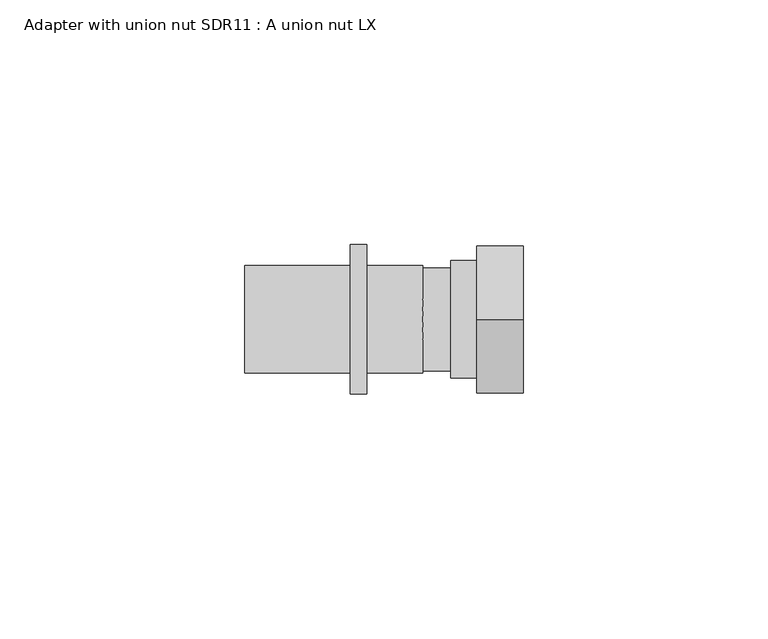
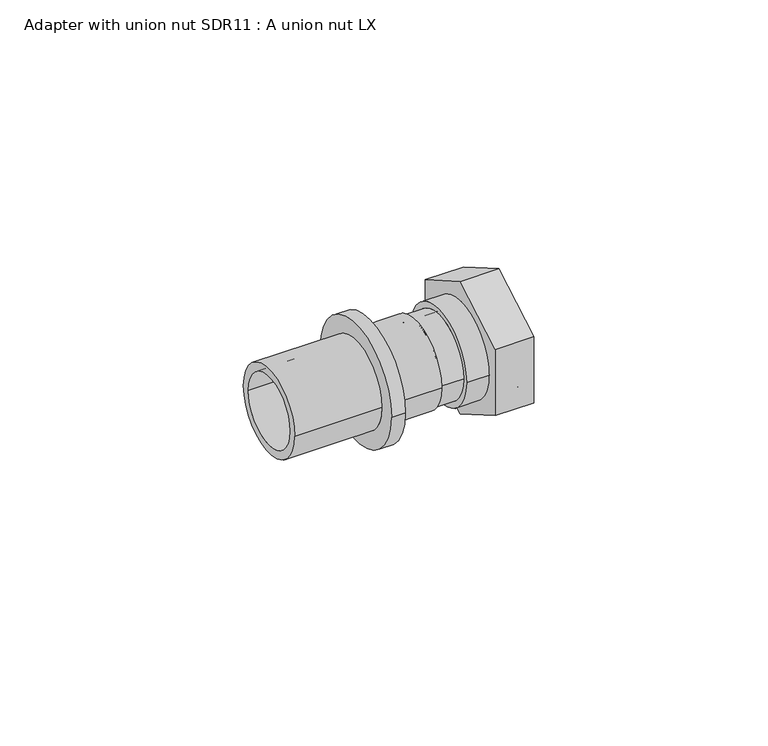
"""IFC4 building model written with IfcOpenShell, lengths in millimetres: pipe fitting geometry, Adapter with union nut SDR11 : A union nut LX."""

from ifc_helpers import new_model, si_unit, frame, origin, place, context, project, spatial, polyline, circle_curve, source, transform, mapped, element, save
from ifc_brep_helpers import plane_surface, cylinder_surface, revolved_surface, advanced_brep


def adapter_with_union_nut_sdr11_a_union_nut_lx_61cef82c(model_context):
    return source(origin(), model_context, "Body", "AdvancedBrep", [
        advanced_brep(
        [(20.5, 12.0, 0.0), (20.5, -12.0, 0.0), (5.7, -12.0, 0.0), (5.7, 12.0, 0.0), (5.7, 10.5, 0.0), (5.7, -10.5, 0.0), (0.0, -10.5, 0.0), (0.0, 10.5, 0.0), (0.0, -8.9, 0.0), (0.0, 8.9, 0.0), (8.2, 10.5, 0.0), (8.2, -10.5, 0.0), (20.5, -10.5, 0.0), (20.5, 10.5, 0.0), (8.2, 8.9, 0.0), (8.2, -8.9, 0.0)],
        [
            (0, 1, circle_curve(frame((20.5, 0.0, 0.0), z_axis=(-1.0, 0.0, 0.0), x_axis=(0.0, -1.0, 0.0)), 12.0)),
            (1, 2),
            (2, 3, circle_curve(frame((5.7, 0.0, 0.0), z_axis=(1.0, 0.0, 0.0), x_axis=(0.0, -1.0, 0.0)), 12.0)),
            (3, 0),
            (4, 5, circle_curve(frame((5.7, 0.0, 0.0), z_axis=(-1.0, 0.0, 0.0), x_axis=(0.0, -1.0, 0.0)), 10.5)),
            (5, 6),
            (6, 7, circle_curve(frame((0.0, 0.0, 0.0), z_axis=(1.0, 0.0, 0.0), x_axis=(0.0, -1.0, 0.0)), 10.5)),
            (7, 4),
            (1, 0, circle_curve(frame((20.5, 0.0, 0.0), z_axis=(-1.0, 0.0, 0.0), x_axis=(0.0, 1.0, 0.0)), 12.0)),
            (3, 2, circle_curve(frame((5.7, 0.0, 0.0), z_axis=(1.0, 0.0, 0.0), x_axis=(0.0, 1.0, 0.0)), 12.0)),
            (6, 7, circle_curve(frame((0.0, 0.0, 0.0), z_axis=(-1.0, 0.0, 0.0), x_axis=(0.0, 1.0, 0.0)), 10.5)),
            (8, 9, circle_curve(frame((0.0, 0.0, 0.0), z_axis=(1.0, 0.0, 0.0), x_axis=(0.0, -1.0, 0.0)), 8.9)),
            (9, 8, circle_curve(frame((0.0, 0.0, 0.0), z_axis=(1.0, 0.0, 0.0), x_axis=(0.0, -1.0, 0.0)), 8.9)),
            (5, 4, circle_curve(frame((5.7, 0.0, 0.0), z_axis=(-1.0, 0.0, 0.0), x_axis=(0.0, 1.0, 0.0)), 10.5)),
            (10, 11, circle_curve(frame((8.2, 0.0, 0.0), z_axis=(-1.0, 0.0, 0.0), x_axis=(0.0, -1.0, 0.0)), 10.5)),
            (11, 12),
            (12, 13, circle_curve(frame((20.5, 0.0, 0.0), z_axis=(1.0, 0.0, 0.0), x_axis=(0.0, -1.0, 0.0)), 10.5)),
            (13, 10),
            (12, 13, circle_curve(frame((20.5, 0.0, 0.0), z_axis=(-1.0, 0.0, 0.0), x_axis=(0.0, 1.0, 0.0)), 10.5)),
            (11, 10, circle_curve(frame((8.2, 0.0, 0.0), z_axis=(-1.0, 0.0, 0.0), x_axis=(0.0, 1.0, 0.0)), 10.5)),
            (14, 15, circle_curve(frame((8.2, 0.0, 0.0), z_axis=(-1.0, 0.0, 0.0), x_axis=(0.0, -1.0, 0.0)), 8.9)),
            (15, 14, circle_curve(frame((8.2, 0.0, 0.0), z_axis=(-1.0, 0.0, 0.0), x_axis=(0.0, -1.0, 0.0)), 8.9)),
            (14, 9),
            (8, 15),
        ],
        [
            cylinder_surface(frame((0.0, 0.0, 0.0), z_axis=(1.0, 0.0, 0.0), x_axis=(0.0, -1.0, 0.0)), 12.0),
            cylinder_surface(frame((0.0, 0.0, 0.0), z_axis=(1.0, 0.0, 0.0), x_axis=(0.0, -1.0, 0.0)), 10.5),
            cylinder_surface(frame((0.0, 0.0, 0.0), z_axis=(1.0, 0.0, 0.0), x_axis=(0.0, 1.0, 0.0)), 12.0),
            plane_surface(frame((0.0, 0.0, 0.0), z_axis=(-1.0, 0.0, 0.0), x_axis=(0.0, 1.0, 0.0))),
            cylinder_surface(frame((0.0, 0.0, 0.0), z_axis=(1.0, 0.0, 0.0), x_axis=(0.0, 1.0, 0.0)), 10.5),
            plane_surface(frame((5.7, 0.0, 0.0), z_axis=(-1.0, 0.0, 0.0), x_axis=(0.0, 1.0, 0.0))),
            revolved_surface(polyline([(20.5, -10.5, 0.0), (8.2, -10.5, 0.0)]), (0.0, 0.0, 0.0), (1.0, 0.0, 0.0)),
            plane_surface(frame((20.5, 0.0, 0.0), z_axis=(1.0, 0.0, 0.0), x_axis=(0.0, 1.0, 0.0))),
            revolved_surface(polyline([(20.5, 10.5, 0.0), (8.2, 10.5, 0.0)]), (0.0, 0.0, 0.0), (1.0, 0.0, 0.0)),
            plane_surface(frame((8.2, 0.0, 0.0), z_axis=(1.0, 0.0, 0.0), x_axis=(0.0, 1.0, 0.0))),
            revolved_surface(polyline([(0.0, -8.9, 0.0), (8.2, -8.9, 0.0)]), (15.75, 0.0, 0.0), (-1.0, 0.0, 0.0)),
        ],
        [
            (0, [[1, 2, 3, 4]]),
            (1, [[5, 6, 7, 8]]),
            (2, [[-2, 9, -4, 10]]),
            (3, [[-7, 11], [12, 13]]),
            (4, [[-6, 14, -8, -11]]),
            (5, [[-3, -10], [-5, -14]]),
            (6, [[15, 16, 17, 18]]),
            (7, [[-1, -9], [-17, 19]]),
            (8, [[-16, 20, -18, -19]]),
            (9, [[-15, -20], [21, 22]]),
            (10, [[23, -12, 24, -21]]),
            (10, [[-23, -22, -24, -13]]),
        ],
    ),
        advanced_brep(
        [(20.5, -15.0, -8.660254), (11.0, -15.0, -8.660254), (11.0, 0.0, -17.3205081), (20.5, 0.0, -17.3205081), (11.0, 15.0, -8.660254), (20.5, 15.0, -8.660254), (11.0, 15.0, 8.660254), (20.5, 15.0, 8.660254), (11.0, 0.0, 17.3205081), (20.5, 0.0, 17.3205081), (11.0, -15.0, 8.660254), (20.5, -15.0, 8.660254), (11.0, -8.9, 0.0), (11.0, 8.9, 0.0), (20.5, 12.0, 0.0), (20.5, -12.0, 0.0), (15.75, 12.0, 0.0), (15.75, -12.0, 0.0), (15.75, 8.9, 0.0), (15.75, -8.9, 0.0)],
        [
            (0, 1),
            (1, 2),
            (2, 3),
            (3, 0),
            (2, 4),
            (4, 5),
            (5, 3),
            (4, 6),
            (6, 7),
            (7, 5),
            (6, 8),
            (8, 9),
            (9, 7),
            (8, 10),
            (10, 11),
            (11, 9),
            (1, 10),
            (12, 13, circle_curve(frame((11.0, 0.0, 0.0), z_axis=(1.0, 0.0, 0.0), x_axis=(0.0, -1.0, 0.0)), 8.9)),
            (13, 12, circle_curve(frame((11.0, 0.0, 0.0), z_axis=(1.0, 0.0, 0.0), x_axis=(0.0, -1.0, 0.0)), 8.9)),
            (0, 11),
            (14, 15, circle_curve(frame((20.5, 0.0, 0.0), z_axis=(-1.0, 0.0, 0.0), x_axis=(0.0, -1.0, 0.0)), 12.0)),
            (15, 14, circle_curve(frame((20.5, 0.0, 0.0), z_axis=(-1.0, 0.0, 0.0), x_axis=(0.0, -1.0, 0.0)), 12.0)),
            (16, 17, circle_curve(frame((15.75, 0.0, 0.0), z_axis=(1.0, 0.0, 0.0), x_axis=(0.0, -1.0, 0.0)), 12.0)),
            (17, 16, circle_curve(frame((15.75, 0.0, 0.0), z_axis=(1.0, 0.0, 0.0), x_axis=(0.0, -1.0, 0.0)), 12.0)),
            (18, 19, circle_curve(frame((15.75, 0.0, 0.0), z_axis=(-1.0, 0.0, 0.0), x_axis=(0.0, -1.0, 0.0)), 8.9)),
            (19, 18, circle_curve(frame((15.75, 0.0, 0.0), z_axis=(-1.0, 0.0, 0.0), x_axis=(0.0, -1.0, 0.0)), 8.9)),
            (17, 15),
            (14, 16),
            (18, 13),
            (12, 19),
        ],
        [
            plane_surface(frame((11.0, -15.0, -8.660254), z_axis=(0.0, -0.5000000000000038, -0.8660254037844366), x_axis=(0.0, 0.8660254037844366, -0.5000000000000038))),
            plane_surface(frame((11.0, 0.0, -17.3205081), z_axis=(0.0, 0.49999999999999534, -0.8660254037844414), x_axis=(0.0, 0.8660254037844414, 0.49999999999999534))),
            plane_surface(frame((11.0, 15.0, -8.660254), z_axis=(0.0, 1.0, 0.0), x_axis=(0.0, 0.0, 1.0))),
            plane_surface(frame((11.0, 15.0, 8.660254), z_axis=(0.0, 0.5000000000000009, 0.8660254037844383), x_axis=(0.0, -0.8660254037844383, 0.5000000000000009))),
            plane_surface(frame((11.0, 0.0, 17.3205081), z_axis=(0.0, -0.4999999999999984, 0.8660254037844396), x_axis=(0.0, -0.8660254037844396, -0.4999999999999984))),
            plane_surface(frame((11.0, 0.0, 0.0), z_axis=(-1.0, 0.0, 0.0), x_axis=(0.0, 0.0, -1.0))),
            plane_surface(frame((11.0, -15.0, 8.660254), z_axis=(0.0, -1.0, 0.0), x_axis=(0.0, 0.0, -1.0))),
            plane_surface(frame((20.5, -15.0, 8.660254), z_axis=(1.0, 0.0, 0.0), x_axis=(0.0, 0.0, -1.0))),
            plane_surface(frame((15.75, -12.0, 0.0), z_axis=(1.0, 0.0, 0.0), x_axis=(0.0, 0.0, 1.0))),
            revolved_surface(polyline([(15.75, -12.0, 0.0), (20.5, -12.0, 0.0)]), (45.0991925, 0.0, 0.0), (-1.0, 0.0, 0.0)),
            revolved_surface(polyline([(11.0, -8.9, 0.0), (15.75, -8.9, 0.0)]), (15.75, 0.0, 0.0), (-1.0, 0.0, 0.0)),
        ],
        [
            (0, [[1, 2, 3, 4]]),
            (1, [[-3, 5, 6, 7]]),
            (2, [[-6, 8, 9, 10]]),
            (3, [[-9, 11, 12, 13]]),
            (4, [[-12, 14, 15, 16]]),
            (5, [[-2, 17, -14, -11, -8, -5], [18, 19]]),
            (6, [[-1, 20, -15, -17]]),
            (7, [[-4, -7, -10, -13, -16, -20], [21, 22]]),
            (8, [[23, 24], [25, 26]]),
            (9, [[-24, 27, -21, 28]]),
            (9, [[-23, -28, -22, -27]]),
            (10, [[29, -18, 30, -25]]),
            (10, [[-29, -26, -30, -19]]),
        ],
    ),
        advanced_brep(
        [(-14.8, 11.0, 0.0), (-14.8, -11.0, 0.0), (-36.3, -11.0, 0.0), (-36.3, 11.0, 0.0), (-11.4, 15.25, 0.0), (-11.4, -15.25, 0.0), (-14.8, -15.25, 0.0), (-14.8, 15.25, 0.0), (0.0, 11.0, 0.0), (0.0, -11.0, 0.0), (-11.4, -11.0, 0.0), (-11.4, 11.0, 0.0), (-36.3, 8.9, 0.0), (-36.3, -8.9, 0.0), (-14.8, -8.9, 0.0), (0.0, -8.9, 0.0), (0.0, 8.9, 0.0), (-14.8, 8.9, 0.0)],
        [
            (0, 1, circle_curve(frame((-14.8, 0.0, 0.0), z_axis=(-1.0, 0.0, 0.0), x_axis=(0.0, -1.0, 0.0)), 11.0)),
            (1, 2),
            (2, 3, circle_curve(frame((-36.3, 0.0, 0.0), z_axis=(1.0, 0.0, 0.0), x_axis=(0.0, -1.0, 0.0)), 11.0)),
            (3, 0),
            (4, 5, circle_curve(frame((-11.4, 0.0, 0.0), z_axis=(-1.0, 0.0, 0.0), x_axis=(0.0, -1.0, 0.0)), 15.25)),
            (5, 6),
            (6, 7, circle_curve(frame((-14.8, 0.0, 0.0), z_axis=(1.0, 0.0, 0.0), x_axis=(0.0, -1.0, 0.0)), 15.25)),
            (7, 4),
            (8, 9, circle_curve(frame((0.0, 0.0, 0.0), z_axis=(-1.0, 0.0, 0.0), x_axis=(0.0, -1.0, 0.0)), 11.0)),
            (9, 10),
            (10, 11, circle_curve(frame((-11.4, 0.0, 0.0), z_axis=(1.0, 0.0, 0.0), x_axis=(0.0, -1.0, 0.0)), 11.0)),
            (11, 8),
            (12, 13, circle_curve(frame((-36.3, 0.0, 0.0), z_axis=(-1.0, 0.0, 0.0), x_axis=(0.0, -1.0, 0.0)), 8.9)),
            (13, 14),
            (14, 15),
            (15, 16, circle_curve(frame((0.0, 0.0, 0.0), z_axis=(1.0, 0.0, 0.0), x_axis=(0.0, -1.0, 0.0)), 8.9)),
            (16, 17),
            (17, 12),
            (2, 3, circle_curve(frame((-36.3, 0.0, 0.0), z_axis=(-1.0, 0.0, 0.0), x_axis=(0.0, 1.0, 0.0)), 11.0)),
            (12, 13, circle_curve(frame((-36.3, 0.0, 0.0), z_axis=(1.0, 0.0, 0.0), x_axis=(0.0, 1.0, 0.0)), 8.9)),
            (1, 0, circle_curve(frame((-14.8, 0.0, 0.0), z_axis=(-1.0, 0.0, 0.0), x_axis=(0.0, 1.0, 0.0)), 11.0)),
            (6, 7, circle_curve(frame((-14.8, 0.0, 0.0), z_axis=(-1.0, 0.0, 0.0), x_axis=(0.0, 1.0, 0.0)), 15.25)),
            (5, 4, circle_curve(frame((-11.4, 0.0, 0.0), z_axis=(-1.0, 0.0, 0.0), x_axis=(0.0, 1.0, 0.0)), 15.25)),
            (10, 11, circle_curve(frame((-11.4, 0.0, 0.0), z_axis=(-1.0, 0.0, 0.0), x_axis=(0.0, 1.0, 0.0)), 11.0)),
            (9, 8, circle_curve(frame((0.0, 0.0, 0.0), z_axis=(-1.0, 0.0, 0.0), x_axis=(0.0, 1.0, 0.0)), 11.0)),
            (15, 16, circle_curve(frame((0.0, 0.0, 0.0), z_axis=(-1.0, 0.0, 0.0), x_axis=(0.0, 1.0, 0.0)), 8.9)),
        ],
        [
            cylinder_surface(frame((0.0, 0.0, 0.0), z_axis=(1.0, 0.0, 0.0), x_axis=(0.0, -1.0, 0.0)), 11.0),
            cylinder_surface(frame((0.0, 0.0, 0.0), z_axis=(1.0, 0.0, 0.0), x_axis=(0.0, -1.0, 0.0)), 15.25),
            revolved_surface(polyline([(0.0, -8.9, 0.0), (-36.3, -8.9, 0.0)]), (0.0, 0.0, 0.0), (1.0, 0.0, 0.0)),
            plane_surface(frame((-36.3, 0.0, 0.0), z_axis=(-1.0, 0.0, 0.0), x_axis=(0.0, 1.0, 0.0))),
            cylinder_surface(frame((0.0, 0.0, 0.0), z_axis=(1.0, 0.0, 0.0), x_axis=(0.0, 1.0, 0.0)), 11.0),
            plane_surface(frame((-14.8, 0.0, 0.0), z_axis=(-1.0, 0.0, 0.0), x_axis=(0.0, 1.0, 0.0))),
            cylinder_surface(frame((0.0, 0.0, 0.0), z_axis=(1.0, 0.0, 0.0), x_axis=(0.0, 1.0, 0.0)), 15.25),
            plane_surface(frame((-11.4, 0.0, 0.0), z_axis=(1.0, 0.0, 0.0), x_axis=(0.0, 1.0, 0.0))),
            plane_surface(frame((0.0, 0.0, 0.0), z_axis=(1.0, 0.0, 0.0), x_axis=(0.0, 1.0, 0.0))),
            revolved_surface(polyline([(0.0, 8.9, 0.0), (-36.3, 8.9, 0.0)]), (0.0, 0.0, 0.0), (1.0, 0.0, 0.0)),
        ],
        [
            (0, [[1, 2, 3, 4]]),
            (1, [[5, 6, 7, 8]]),
            (0, [[9, 10, 11, 12]]),
            (2, [[13, 14, 15, 16, 17, 18]]),
            (3, [[-3, 19], [-13, 20]]),
            (4, [[-2, 21, -4, -19]]),
            (5, [[-7, 22], [-1, -21]]),
            (6, [[-6, 23, -8, -22]]),
            (7, [[-5, -23], [-11, 24]]),
            (4, [[-10, 25, -12, -24]]),
            (8, [[-9, -25], [-16, 26]]),
            (9, [[-20, -18, -17, -26, -15, -14]]),
        ],
    ),
    ])


if __name__ == "__main__":
    model = new_model("IFC4")
    model_context = context("Model", 3, world=origin())
    ifc_project = project(units=[si_unit("LENGTHUNIT", "METRE", prefix="MILLI")], contexts=[model_context])
    site = spatial("IfcSite", under=ifc_project)
    building = spatial("IfcBuilding", under=site)
    placement = place(None, origin())
    adapter_with_union_nut_sdr11_a_union_nut_lx_shape = adapter_with_union_nut_sdr11_a_union_nut_lx_61cef82c(model_context)
    element("IfcPipeFitting", 1, ObjectType="Adapter with union nut SDR11 : A union nut LX", at=placement, inside=building, context=model_context, shape_type="MappedRepresentation", body=[
        mapped(adapter_with_union_nut_sdr11_a_union_nut_lx_shape, transform((0.0, 0.0, 0.0), x_axis=(1.0, 0.0, 0.0), y_axis=(0.0, 1.0, 0.0), z_axis=(0.0, 0.0, 1.0))),
    ])
    save(model, "model.ifc")
